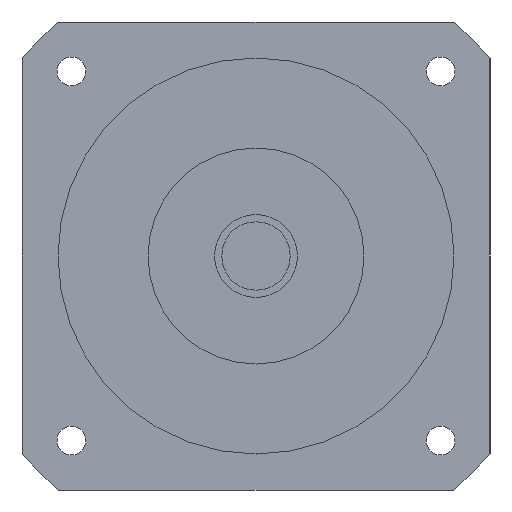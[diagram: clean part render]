
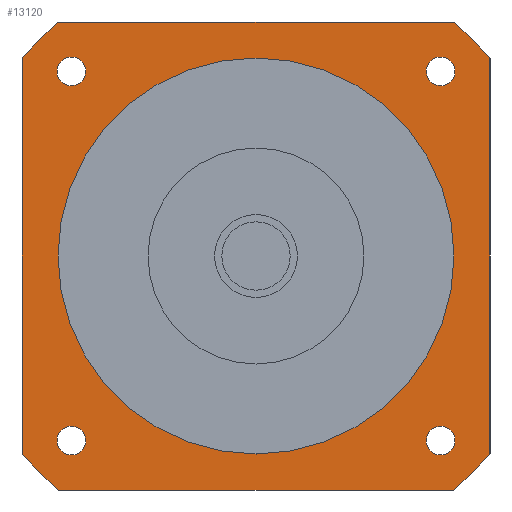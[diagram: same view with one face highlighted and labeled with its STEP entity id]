
A CAD part, left-side view. The second image highlights one B-rep face of the part: STEP entity #13120.
In plain terms, the highlighted planar face has unit normal (-1, 0, 0) as drawn and (0, 0, -1) by its records, which use the part's own axes.
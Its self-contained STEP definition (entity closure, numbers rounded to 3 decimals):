
#8890=CARTESIAN_POINT('',(47.265,-51.265,-65.));
#8900=VERTEX_POINT('',#8890);
#8930=CARTESIAN_POINT('',(51.265,-51.265,-65.));
#8940=DIRECTION('',(0.,0.,-1.));
#8950=DIRECTION('',(1.,0.,0.));
#8960=AXIS2_PLACEMENT_3D('',#8930,#8940,#8950);
#8970=CIRCLE('',#8960,4.);
#8980=CARTESIAN_POINT('',(55.265,-51.265,-65.));
#8990=VERTEX_POINT('',#8980);
#9000=EDGE_CURVE('',#8990,#8900,#8970,.T.);
#9240=CARTESIAN_POINT('',(65.,-54.772,-65.));
#9250=VERTEX_POINT('',#9240);
#9300=CARTESIAN_POINT('',(0.,0.,-65.
));
#9310=DIRECTION('',(0.,0.,-1.));
#9320=DIRECTION('',(1.,0.,0.));
#9330=AXIS2_PLACEMENT_3D('',#9300,#9310,#9320);
#9340=CIRCLE('',#9330,85.);
#9350=CARTESIAN_POINT('',(54.772,-65.,-65.));
#9360=VERTEX_POINT('',#9350);
#9370=EDGE_CURVE('',#9250,#9360,#9340,.T.);
#11650=CARTESIAN_POINT('',(-51.265,-47.265,-65.));
#11660=VERTEX_POINT('',#11650);
#11690=CARTESIAN_POINT('',(-51.265,-51.265,-65.));
#11700=DIRECTION('',(0.,0.,-1.));
#11710=DIRECTION('',(0.,-1.,0.));
#11720=AXIS2_PLACEMENT_3D('',#11690,#11700,#11710);
#11730=CIRCLE('',#11720,4.);
#11740=CARTESIAN_POINT('',(-51.265,-55.265,-65.));
#11750=VERTEX_POINT('',#11740);
#11760=EDGE_CURVE('',#11750,#11660,#11730,.T.);
#11880=CARTESIAN_POINT('',(65.,65.,-65.));
#11890=DIRECTION('',(0.,0.,-1.));
#11900=DIRECTION('',(1.,0.,0.));
#11910=AXIS2_PLACEMENT_3D('',#11880,#11890,#11900);
#11920=PLANE('',#11910);
#11930=ORIENTED_EDGE('',*,*,#11760,.F.);
#11940=EDGE_CURVE('',#11660,#11750,#11730,.T.);
#11950=ORIENTED_EDGE('',*,*,#11940,.F.);
#11960=EDGE_LOOP('',(#11950,#11930));
#11970=FACE_BOUND('',#11960,.T.);
#11980=CARTESIAN_POINT('',(-51.265,51.265,-65.));
#11990=DIRECTION('',(0.,0.,-1.));
#12000=DIRECTION('',(-1.,0.,0.));
#12010=AXIS2_PLACEMENT_3D('',#11980,#11990,#12000);
#12020=CIRCLE('',#12010,4.);
#12030=CARTESIAN_POINT('',(-55.265,51.265,-65.));
#12040=VERTEX_POINT('',#12030);
#12050=CARTESIAN_POINT('',(-47.265,51.265,-65.));
#12060=VERTEX_POINT('',#12050);
#12070=EDGE_CURVE('',#12040,#12060,#12020,.T.);
#12080=ORIENTED_EDGE('',*,*,#12070,.F.);
#12090=EDGE_CURVE('',#12060,#12040,#12020,.T.);
#12100=ORIENTED_EDGE('',*,*,#12090,.F.);
#12110=EDGE_LOOP('',(#12100,#12080));
#12120=FACE_BOUND('',#12110,.T.);
#12130=CARTESIAN_POINT('',(51.265,51.265,-65.));
#12140=DIRECTION('',(0.,0.,-1.));
#12150=DIRECTION('',(0.,1.,0.));
#12160=AXIS2_PLACEMENT_3D('',#12130,#12140,#12150);
#12170=CIRCLE('',#12160,4.);
#12180=CARTESIAN_POINT('',(51.265,55.265,-65.));
#12190=VERTEX_POINT('',#12180);
#12200=CARTESIAN_POINT('',(51.265,47.265,-65.));
#12210=VERTEX_POINT('',#12200);
#12220=EDGE_CURVE('',#12190,#12210,#12170,.T.);
#12230=ORIENTED_EDGE('',*,*,#12220,.F.);
#12240=EDGE_CURVE('',#12210,#12190,#12170,.T.);
#12250=ORIENTED_EDGE('',*,*,#12240,.F.);
#12260=EDGE_LOOP('',(#12250,#12230));
#12270=FACE_BOUND('',#12260,.T.);
#12280=CARTESIAN_POINT('',(0.,0.,
-65.));
#12290=DIRECTION('',(0.,0.,1.));
#12300=DIRECTION('',(0.,1.,0.));
#12310=AXIS2_PLACEMENT_3D('',#12280,#12290,#12300);
#12320=CIRCLE('',#12310,55.);
#12330=CARTESIAN_POINT('',(-55.,0.,-65.));
#12340=VERTEX_POINT('',#12330);
#12350=CARTESIAN_POINT('',(55.,0.,-65.));
#12360=VERTEX_POINT('',#12350);
#12370=EDGE_CURVE('',#12340,#12360,#12320,.T.);
#12380=ORIENTED_EDGE('',*,*,#12370,.T.);
#12390=CARTESIAN_POINT('',(0.,55.,-65.));
#12400=VERTEX_POINT('',#12390);
#12410=EDGE_CURVE('',#12400,#12340,#12320,.T.);
#12420=ORIENTED_EDGE('',*,*,#12410,.T.);
#12430=EDGE_CURVE('',#12360,#12400,#12320,.T.);
#12440=ORIENTED_EDGE('',*,*,#12430,.T.);
#12450=EDGE_LOOP('',(#12440,#12420,#12380));
#12460=FACE_BOUND('',#12450,.T.);
#12470=CARTESIAN_POINT('',(-65.,65.,-65.));
#12480=DIRECTION('',(1.,0.,0.));
#12490=VECTOR('',#12480,1000.);
#12500=LINE('',#12470,#12490);
#12510=CARTESIAN_POINT('',(-54.772,65.,-65.));
#12520=VERTEX_POINT('',#12510);
#12530=CARTESIAN_POINT('',(54.772,65.,-65.));
#12540=VERTEX_POINT('',#12530);
#12550=EDGE_CURVE('',#12520,#12540,#12500,.T.);
#12560=ORIENTED_EDGE('',*,*,#12550,.T.);
#12570=CARTESIAN_POINT('',(0.,0.,
-65.));
#12580=DIRECTION('',(0.,0.,-1.));
#12590=DIRECTION('',(1.,0.,0.));
#12600=AXIS2_PLACEMENT_3D('',#12570,#12580,#12590);
#12610=CIRCLE('',#12600,85.);
#12620=CARTESIAN_POINT('',(-65.,54.772,-65.));
#12630=VERTEX_POINT('',#12620);
#12640=EDGE_CURVE('',#12630,#12520,#12610,.T.);
#12650=ORIENTED_EDGE('',*,*,#12640,.T.);
#12660=CARTESIAN_POINT('',(-65.,-65.,-65.));
#12670=DIRECTION('',(0.,1.,0.));
#12680=VECTOR('',#12670,1000.);
#12690=LINE('',#12660,#12680);
#12700=CARTESIAN_POINT('',(-65.,-54.772,-65.));
#12710=VERTEX_POINT('',#12700);
#12720=EDGE_CURVE('',#12710,#12630,#12690,.T.);
#12730=ORIENTED_EDGE('',*,*,#12720,.T.);
#12740=CARTESIAN_POINT('',(0.,0.,
-65.));
#12750=DIRECTION('',(0.,0.,-1.));
#12760=DIRECTION('',(1.,0.,0.));
#12770=AXIS2_PLACEMENT_3D('',#12740,#12750,#12760);
#12780=CIRCLE('',#12770,85.);
#12790=CARTESIAN_POINT('',(-54.772,-65.,-65.));
#12800=VERTEX_POINT('',#12790);
#12810=EDGE_CURVE('',#12800,#12710,#12780,.T.);
#12820=ORIENTED_EDGE('',*,*,#12810,.T.);
#12830=CARTESIAN_POINT('',(65.,-65.,-65.));
#12840=DIRECTION('',(-1.,0.,0.));
#12850=VECTOR('',#12840,1000.);
#12860=LINE('',#12830,#12850);
#12870=EDGE_CURVE('',#9360,#12800,#12860,.T.);
#12880=ORIENTED_EDGE('',*,*,#12870,.T.);
#12890=ORIENTED_EDGE('',*,*,#9370,.T.);
#12900=CARTESIAN_POINT('',(65.,65.,-65.));
#12910=DIRECTION('',(0.,-1.,0.));
#12920=VECTOR('',#12910,1000.);
#12930=LINE('',#12900,#12920);
#12940=CARTESIAN_POINT('',(65.,54.772,-65.));
#12950=VERTEX_POINT('',#12940);
#12960=EDGE_CURVE('',#12950,#9250,#12930,.T.);
#12970=ORIENTED_EDGE('',*,*,#12960,.T.);
#12980=CARTESIAN_POINT('',(0.,0.,
-65.));
#12990=DIRECTION('',(0.,0.,-1.));
#13000=DIRECTION('',(1.,0.,0.));
#13010=AXIS2_PLACEMENT_3D('',#12980,#12990,#13000);
#13020=CIRCLE('',#13010,85.);
#13030=EDGE_CURVE('',#12540,#12950,#13020,.T.);
#13040=ORIENTED_EDGE('',*,*,#13030,.T.);
#13050=EDGE_LOOP('',(#13040,#12970,#12890,#12880,#12820,#12730,#12650,
#12560));
#13060=FACE_OUTER_BOUND('',#13050,.T.);
#13070=ORIENTED_EDGE('',*,*,#9000,.F.);
#13080=EDGE_CURVE('',#8900,#8990,#8970,.T.);
#13090=ORIENTED_EDGE('',*,*,#13080,.F.);
#13100=EDGE_LOOP('',(#13090,#13070));
#13110=FACE_BOUND('',#13100,.T.);
#13120=ADVANCED_FACE('',(#11970,#12120,#12270,#12460,#13060,#13110),
#11920,.T.);
